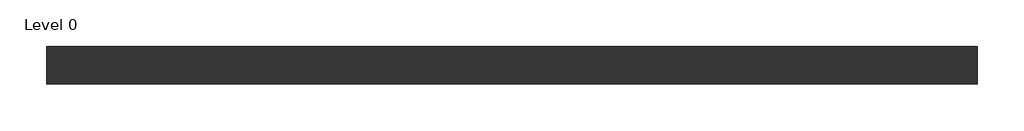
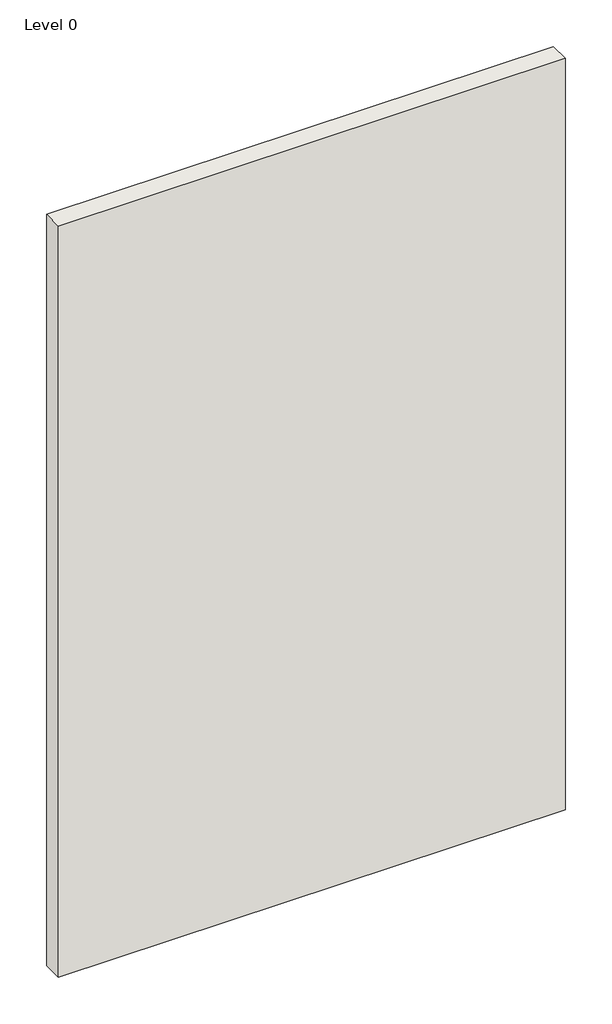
# One storey: 1 wall.
"""IFC4 building model written with IfcOpenShell, lengths in millimetres."""

import ifcopenshell
import ifcopenshell.guid

model = None  # the IFC model being written
_history = None  # IfcOwnerHistory: only IFC2X3 demands one
_inside = {}  # id of a spatial element -> (the spatial element, [elements in it])
_under = {}  # id of a project, library or spatial element -> (it, [spatial elements below it])
_declared = {}  # id of a project -> (the project, [libraries it declares])
_typed = {}  # id of a type object -> (the type object, [elements of that type])
_made_of = {}  # id of a material, layer set ... -> (it, [elements and type objects made of it])


def new_model(schema):
    """Start an empty IFC model of exactly this schema.

    Asked for "IFC4X3", IfcOpenShell would pick the latest addendum, in which some entities
    have other attributes; the version numbers below select the first issue.
    IFC2X3 requires an IfcOwnerHistory on every rooted entity: one is made here for all.
    """
    global model, _history
    if schema == "IFC4X3":
        model = ifcopenshell.file(schema_version=(4, 3, 0, 0))
    else:
        model = ifcopenshell.file(schema=schema)
    _inside.clear()
    _under.clear()
    _declared.clear()
    _typed.clear()
    _made_of.clear()
    _history = None
    if model.schema == "IFC2X3":
        org = make("IfcOrganization", Name="unknown")
        user = make(
            "IfcPersonAndOrganization",
            ThePerson=make("IfcPerson", FamilyName="unknown"),
            TheOrganization=org,
        )
        app = make(
            "IfcApplication",
            ApplicationDeveloper=org,
            Version="unknown",
            ApplicationFullName="unknown",
            ApplicationIdentifier="unknown",
        )
        _history = make(
            "IfcOwnerHistory",
            OwningUser=user,
            OwningApplication=app,
            ChangeAction="ADDED",
            CreationDate=0,
        )
    return model


def make(cls, **values):
    """One entity of the class cls with the attributes given. An attribute that is None is left unset."""
    return model.create_entity(
        cls, **{name: value for name, value in values.items() if value is not None}
    )


def rooted(cls, **values):
    """An entity with a GlobalId (a new one), such as an element, a storey or a relation."""
    return make(cls, GlobalId=ifcopenshell.guid.new(), OwnerHistory=_history, **values)


def si_unit(unit_type, name, prefix=None):
    """IfcSIUnit, for example si_unit("LENGTHUNIT", "METRE", prefix="MILLI")."""
    return make("IfcSIUnit", UnitType=unit_type, Prefix=prefix, Name=name)


def assignment(units):
    """IfcUnitAssignment: the units of a project."""
    return None if units is None else make("IfcUnitAssignment", Units=units)


def point(xyz):
    """IfcCartesianPoint."""
    return None if xyz is None else make("IfcCartesianPoint", Coordinates=xyz)


def direction(xyz):
    """IfcDirection."""
    return None if xyz is None else make("IfcDirection", DirectionRatios=xyz)


def frame(location, z_axis=None, x_axis=None):
    """IfcAxis2Placement3D, a coordinate frame: its origin and axes. An axis left out is left unset."""
    return make(
        "IfcAxis2Placement3D",
        Location=point(location),
        Axis=direction(z_axis),
        RefDirection=direction(x_axis),
    )


def origin():
    """The frame at (0, 0, 0) with its axes left unset."""
    return frame((0.0, 0.0, 0.0))


def origin_with_axes():
    """The frame at (0, 0, 0) with the z axis (0, 0, 1) and the x axis (1, 0, 0) written out."""
    return frame((0.0, 0.0, 0.0), z_axis=(0.0, 0.0, 1.0), x_axis=(1.0, 0.0, 0.0))


def place(relative_to, where):
    """IfcLocalPlacement: puts the frame where relative to a parent placement (None: the world)."""
    return make(
        "IfcLocalPlacement", PlacementRelTo=relative_to, RelativePlacement=where
    )


def context(
    kind, dimensions, precision=None, world=None, true_north=None, identifier=None
):
    """IfcGeometricRepresentationContext, for example the 3D "Model" context."""
    return make(
        "IfcGeometricRepresentationContext",
        ContextIdentifier=identifier,
        ContextType=kind,
        CoordinateSpaceDimension=dimensions,
        Precision=precision,
        WorldCoordinateSystem=world,
        TrueNorth=true_north,
    )


def project(units=None, contexts=None):
    """IfcProject with its units and contexts."""
    return rooted(
        "IfcProject",
        Name="project",
        RepresentationContexts=contexts,
        UnitsInContext=assignment(units),
    )


def spatial(cls, under=None, at=None, **own):
    """A site, building, storey or space (cls), placed at a placement, below another one or the project."""
    s = rooted(cls, ObjectPlacement=at, **own)
    if under is not None:
        _under.setdefault(under.id(), (under, []))[1].append(s)
    return s


def polyline(points):
    """IfcPolyline through the points."""
    return make("IfcPolyline", Points=[point(p) for p in points])


def outline(outer, holes=None, kind="AREA"):
    """IfcArbitraryClosedProfileDef: a profile drawn as a closed curve; with holes, ...WithVoids."""
    if holes is None:
        return make("IfcArbitraryClosedProfileDef", ProfileType=kind, OuterCurve=outer)
    return make(
        "IfcArbitraryProfileDefWithVoids",
        ProfileType=kind,
        OuterCurve=outer,
        InnerCurves=holes,
    )


def extrude(swept, where, along, depth):
    """IfcExtrudedAreaSolid: the profile swept, set in the frame where, extruded along a direction by depth."""
    return make(
        "IfcExtrudedAreaSolid",
        SweptArea=swept,
        Position=where,
        ExtrudedDirection=direction(along),
        Depth=depth,
    )


def shape(context_of_items, identifier, shape_type, items):
    """IfcShapeRepresentation: the items that make up one representation, for example the "Body"."""
    return make(
        "IfcShapeRepresentation",
        ContextOfItems=context_of_items,
        RepresentationIdentifier=identifier,
        RepresentationType=shape_type,
        Items=items,
    )


def made_of(thing, what):
    """Note that an element or type object is made of a material, layer set ...; save() writes the relation."""
    if what is not None:
        _made_of.setdefault(what.id(), (what, []))[1].append(thing)
    return thing


def element(
    cls,
    number,
    at=None,
    inside=None,
    cuts=None,
    type_object=None,
    material=None,
    context=None,
    identifier="Body",
    shape_type=None,
    held_by="IfcProductDefinitionShape",
    body=None,
    shapes=None,
    **own,
):
    """One element of the class cls, such as IfcWall. Its Tag is "e" and its number.

    at: its placement. inside: the storey or other place that contains it. cuts: it is an
    opening in that element (IfcRelVoidsElement). A single representation is given by context,
    identifier, shape_type and body (its items); several are given by shapes. held_by: the class
    of the entity that holds the representations. save() writes the other relations.
    """
    e = rooted(cls, Tag="e%d" % number, ObjectPlacement=at, **own)
    if body is not None:
        shapes = [shape(context, identifier, shape_type, body)]
    if shapes is not None:
        e.Representation = make(held_by, Representations=shapes)
    if inside is not None:
        _inside.setdefault(inside.id(), (inside, []))[1].append(e)
    if cuts is not None:
        rooted(
            "IfcRelVoidsElement", RelatingBuildingElement=cuts, RelatedOpeningElement=e
        )
    if type_object is not None:
        _typed.setdefault(type_object.id(), (type_object, []))[1].append(e)
    return made_of(e, material)


def aggregate(whole, parts):
    """IfcRelAggregates: a whole, such as a stair, and the parts it consists of."""
    return rooted("IfcRelAggregates", RelatingObject=whole, RelatedObjects=parts)


def save(model, path):
    """Write the relations noted so far, then the file.

    IfcRelAggregates (storeys below a building ...), IfcRelContainedInSpatialStructure (elements
    in a storey), IfcRelDefinesByType, IfcRelAssociatesMaterial and IfcRelDeclares: one each for
    every whole, place, type object, material and project.
    """
    for whole, parts in _under.values():
        aggregate(whole, parts)
    for where, things in _inside.values():
        rooted(
            "IfcRelContainedInSpatialStructure",
            RelatedElements=things,
            RelatingStructure=where,
        )
    for kind, things in _typed.values():
        rooted("IfcRelDefinesByType", RelatedObjects=things, RelatingType=kind)
    for what, things in _made_of.values():
        rooted("IfcRelAssociatesMaterial", RelatedObjects=things, RelatingMaterial=what)
    for by, libraries in _declared.values():
        rooted("IfcRelDeclares", RelatingContext=by, RelatedDefinitions=libraries)
    model.write(path)


model = new_model("IFC4")

# Units and contexts
model_context = context("Model", 3, world=origin())
ifc_project = project(units=[si_unit("LENGTHUNIT", "METRE", prefix="MILLI")], contexts=[model_context])

# Site, building, storey
site = spatial("IfcSite", under=ifc_project)
building = spatial("IfcBuilding", under=site)
storey = spatial("IfcBuildingStorey", under=building, Name="Level 0", Elevation=0.0)

# Wall
placement = place(None, origin())
element("IfcWall", 1, ObjectType="A206A198 - GypWall CLASSIC", at=placement, inside=storey, context=model_context, shape_type="SweptSolid", body=[
    extrude(outline(polyline([(2116.0807354, 532.7205641), (-883.9192646, 532.7205641), (-883.9192646, 654.7205641), (2116.0807354, 654.7205641), (2116.0807354, 532.7205641)])), origin_with_axes(), (0.0, 0.0, 1.0), 4700.0),
])

save(model, "model.ifc")
